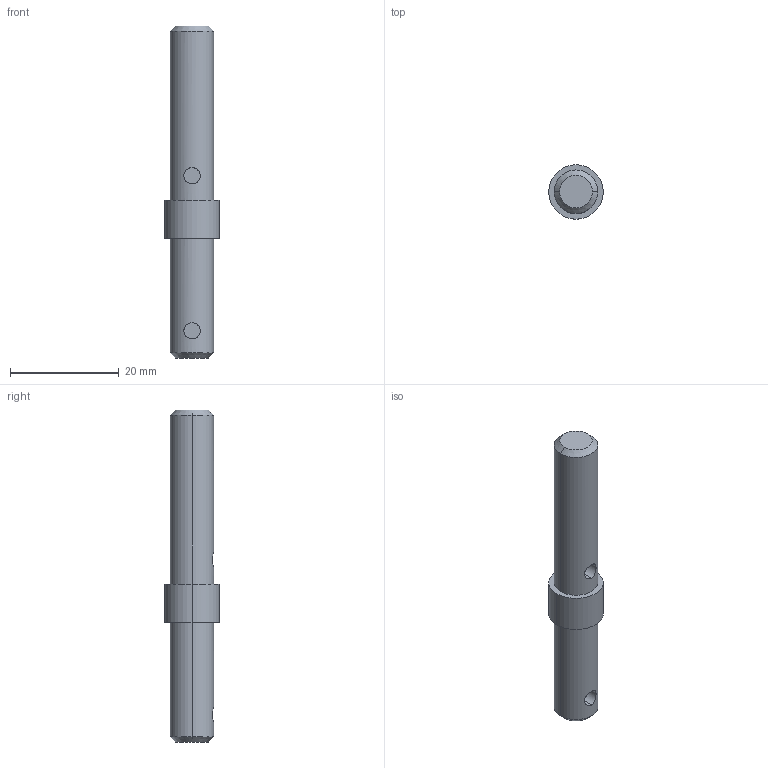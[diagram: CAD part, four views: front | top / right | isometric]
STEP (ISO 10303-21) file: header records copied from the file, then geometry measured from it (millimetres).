
FILE_DESCRIPTION (( 'STEP AP214' ), '1' );
FILE_NAME ('翋极粣.STEP', '2024-11-14T11:34:16', ( '' ), ( '' ), 'SwSTEP 2.0', 'SolidWorks 2021', '' );
FILE_SCHEMA (( 'AUTOMOTIVE_DESIGN' ));
Length unit declared in the file: millimetre
Products named in the file (1): 翋极粣
Bounding box: 10 x 10 x 61 mm (x, y, z)
Volume: 3185.5 mm3; surface area: 1774.5 mm2
Topology: 1 solids, 1 shells, 20 faces, 38 edges, 24 vertices
Faces by surface type: cylinder 10, plane 6, cone 4
Entity records: 636 total; most frequent: CARTESIAN_POINT 183, DIRECTION 96, ORIENTED_EDGE 76, AXIS2_PLACEMENT_3D 41, EDGE_CURVE 38, VERTEX_POINT 24, EDGE_LOOP 24, FACE_OUTER_BOUND 20
